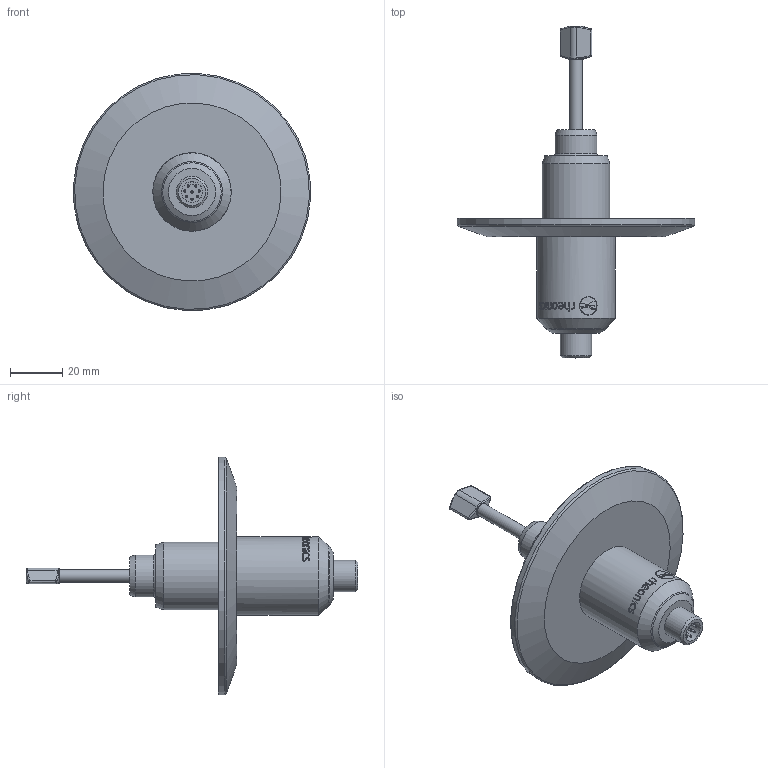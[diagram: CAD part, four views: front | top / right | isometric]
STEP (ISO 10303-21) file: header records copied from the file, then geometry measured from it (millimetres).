
FILE_DESCRIPTION(/* description */ ('Unknown'),/* implementation_level */ '2;1');
FILE_NAME(/* name */ 'SRD-X3-30T',/* time_stamp */ '2023-12-12T16:33:40-05:00',/* author */ ('Unknown'),/* organization */ ('Unknown'),/* preprocessor_version */ 'ST-DEVELOPER v16.7',/* originating_system */ 'Solid Edge',/* authorisation */ 'Unknown');
FILE_SCHEMA (('CONFIG_CONTROL_DESIGN'));
Length unit declared in the file: millimetre
Products named in the file (1): SRD-X3-30T
Bounding box: 90.89 x 127.15 x 90.89 mm (x, y, z)
Volume: 79628.6 mm3; surface area: 21423.6 mm2
Topology: 1 solids, 1 shells, 207 faces, 511 edges, 328 vertices
Faces by surface type: bspline 94, plane 42, cylinder 41, cone 12, torus 10, sphere 8
Full cylindrical faces by diameter (mm): 0.8 x8, 5 x1, 8 x1, 12 x1, 16 x1, 26 x1, 30 x1, 91 x1
Entity records: 10751 total; most frequent: CARTESIAN_POINT 5313, ORIENTED_EDGE 900, DIRECTION 562, EDGE_CURVE 450, VERTEX_POINT 306, EDGE_LOOP 268, FACE_BOUND 268, B_SPLINE_CURVE_WITH_KNOTS 215
